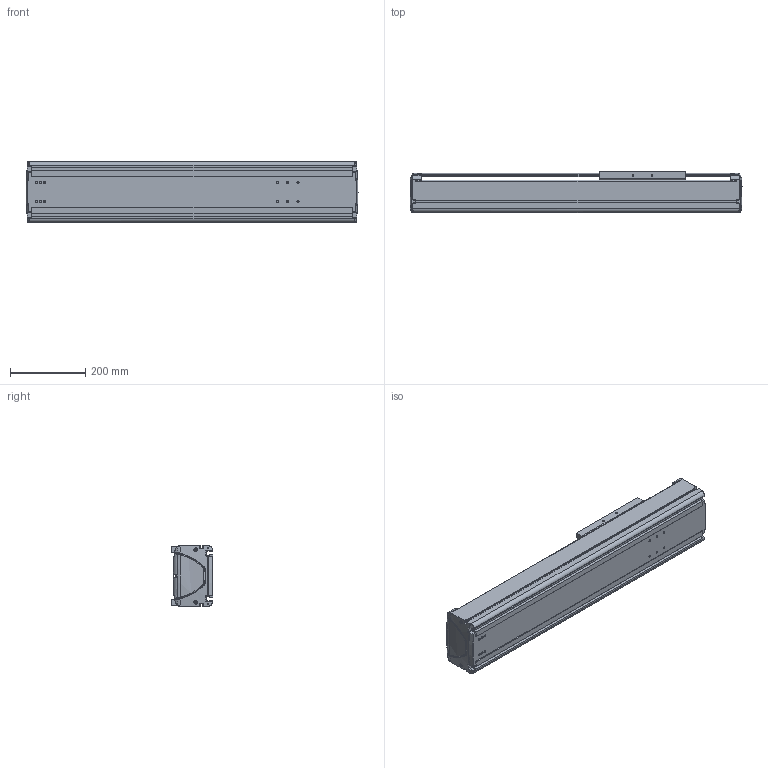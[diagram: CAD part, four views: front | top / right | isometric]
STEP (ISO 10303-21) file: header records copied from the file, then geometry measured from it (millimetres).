
FILE_DESCRIPTION((''),'2;1');
FILE_NAME('BE50G-ST-L_N-45_IGS_PRT','2017-06-18T',(' '),(''),'PRO/ENGINEER BY PARAMETRIC TECHNOLOGY CORPORATION, 2015030','PRO/ENGINEER BY PARAMETRIC TECHNOLOGY CORPORATION, 2015030','');
FILE_SCHEMA(('CONFIG_CONTROL_DESIGN'));
Length unit declared in the file: millimetre
Products named in the file (1): BE50G-ST-L_N-45_IGS_PRT
Bounding box: 879.98 x 110 x 160 mm (x, y, z)
Volume: 4267596.5 mm3; surface area: 1413657.2 mm2
Topology: 2 solids, 75 shells, 1568 faces, 4124 edges, 2633 vertices
Faces by surface type: cylinder 662, plane 613, bspline 102, torus 87, cone 64, sphere 40
Entity records: 53711 total; most frequent: CARTESIAN_POINT 15398, ORIENTED_EDGE 7892, DIRECTION 7866, EDGE_CURVE 4092, AXIS2_PLACEMENT_3D 2920, VERTEX_POINT 2631, VECTOR 2026, LINE 2026
